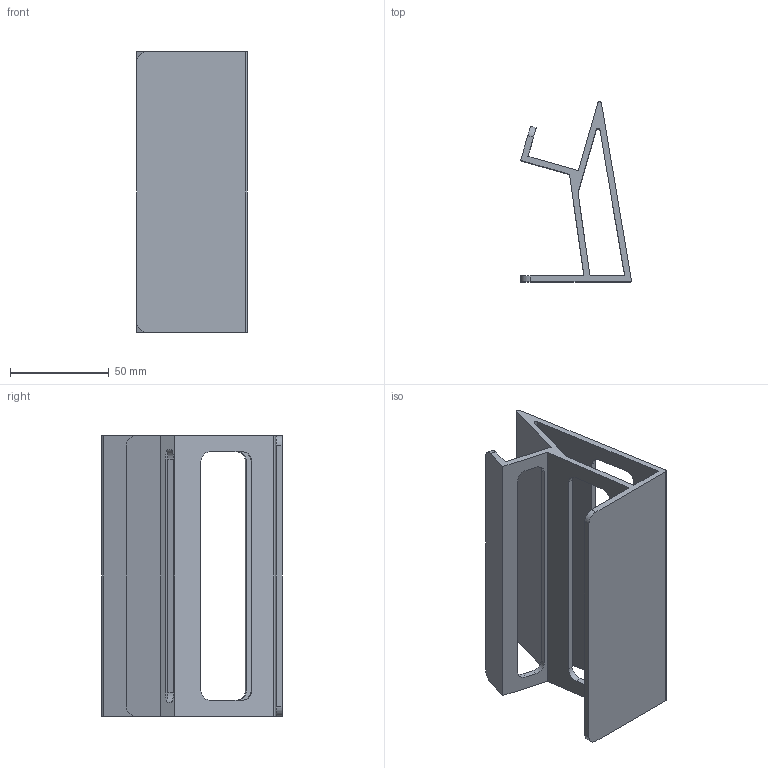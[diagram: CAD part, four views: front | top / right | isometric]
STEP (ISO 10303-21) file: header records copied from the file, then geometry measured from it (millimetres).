
FILE_DESCRIPTION (( 'STEP AP203' ), '1' );
FILE_NAME ('Wireless earbud cases holder 2.STEP', '2025-02-17T22:12:25', ( '' ), ( '' ), 'SwSTEP 2.0', 'SolidWorks 2024', '' );
FILE_SCHEMA (( 'CONFIG_CONTROL_DESIGN' ));
Length unit declared in the file: millimetre
Products named in the file (1): Wireless earbud cases holder 2
Bounding box: 56.03 x 91.23 x 142 mm (x, y, z)
Volume: 93454 mm3; surface area: 62625.1 mm2
Topology: 1 solids, 1 shells, 51 faces, 147 edges, 98 vertices
Faces by surface type: plane 29, cylinder 22
Entity records: 1770 total; most frequent: CARTESIAN_POINT 321, ORIENTED_EDGE 294, DIRECTION 279, EDGE_CURVE 147, LINE 103, VECTOR 103, VERTEX_POINT 98, AXIS2_PLACEMENT_3D 88
